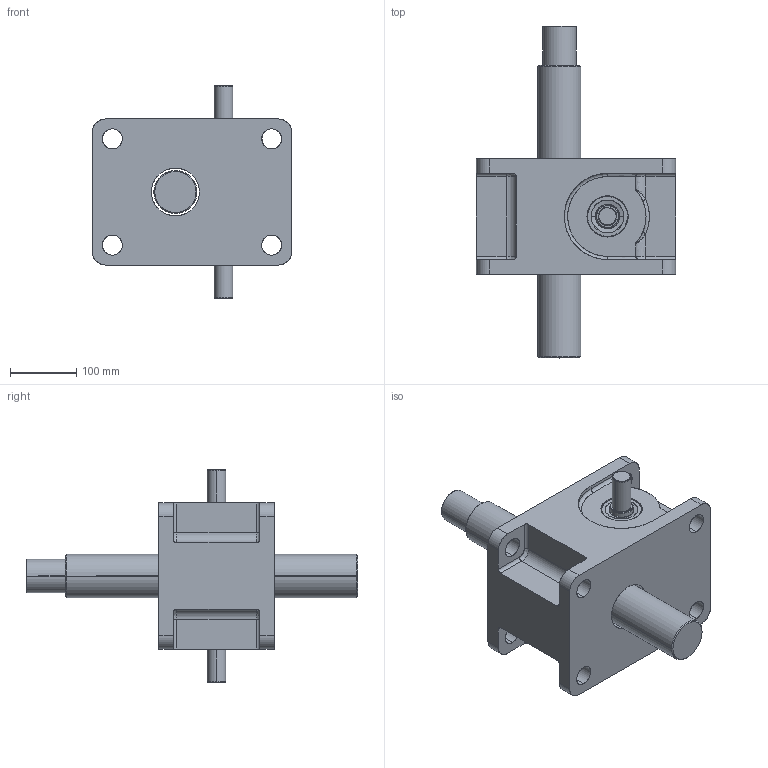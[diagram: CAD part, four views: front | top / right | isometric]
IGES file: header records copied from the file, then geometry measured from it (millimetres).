
Start section: SolidWorks IGES file using analytic representation for surfaces
Global section: file name: E:\3D\desenv\Solid Works\Levy\web\LMA\LMA20\LMA20.IGS; native system: SolidWorks 2008; preprocessor: SolidWorks 2008; author: User; date: 080730.212722; units: millimetre
Bounding box: 300 x 500 x 320 mm (x, y, z)
Surface area: 584139.9 mm2 (no closed solid volume)
Topology: 0 solids, 0 shells, 219 faces, 4590 edges, 4590 vertices
Faces by surface type: revolution 148, bspline 71
